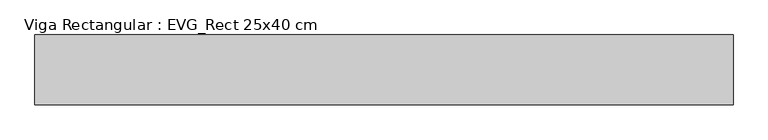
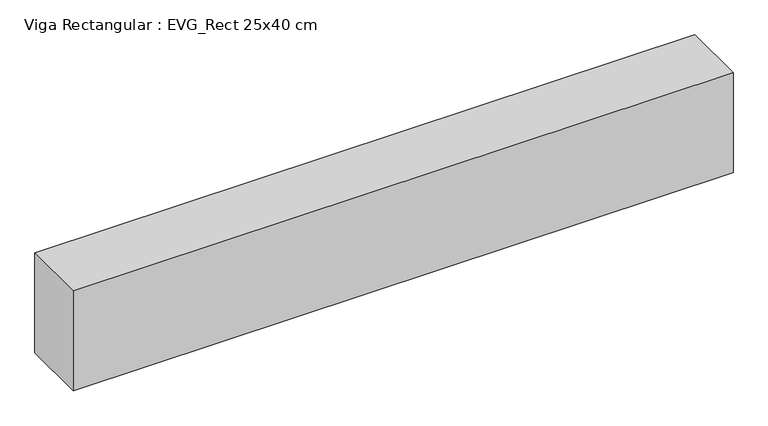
"""IFC4 building model written with IfcOpenShell, lengths in millimetres: beam geometry, Viga Rectangular : EVG_Rect 25x40 cm."""

from ifc_helpers import new_model, si_unit, frame, origin, place, context, project, spatial, polyline, outline, extrude, source, transform, mapped, element, save


def viga_rectangular_evg_rect_25x40_cm_d11aaed7(model_context):
    return source(origin(), model_context, "Body", "SweptSolid", [
        extrude(outline(polyline([(1250.0, 125.0), (1250.0, -125.0), (-1250.0, -125.0), (-1250.0, 125.0), (1250.0, 125.0)])), frame((0.0, 0.0, -400.0), z_axis=(0.0, 0.0, 1.0), x_axis=(1.0, 0.0, 0.0)), (0.0, 0.0, 1.0), 400.0),
    ])


if __name__ == "__main__":
    model = new_model("IFC4")
    model_context = context("Model", 3, world=origin())
    ifc_project = project(units=[si_unit("LENGTHUNIT", "METRE", prefix="MILLI")], contexts=[model_context])
    site = spatial("IfcSite", under=ifc_project)
    building = spatial("IfcBuilding", under=site)
    placement = place(None, origin())
    viga_rectangular_evg_rect_25x40_cm_shape = viga_rectangular_evg_rect_25x40_cm_d11aaed7(model_context)
    element("IfcBeam", 1, ObjectType="Viga Rectangular : EVG_Rect 25x40 cm", at=placement, inside=building, context=model_context, shape_type="MappedRepresentation", body=[
        mapped(viga_rectangular_evg_rect_25x40_cm_shape, transform((0.0, 0.0, 0.0), x_axis=(1.0, 0.0, 0.0), y_axis=(0.0, 1.0, 0.0), z_axis=(0.0, 0.0, 1.0))),
    ])
    save(model, "model.ifc")
